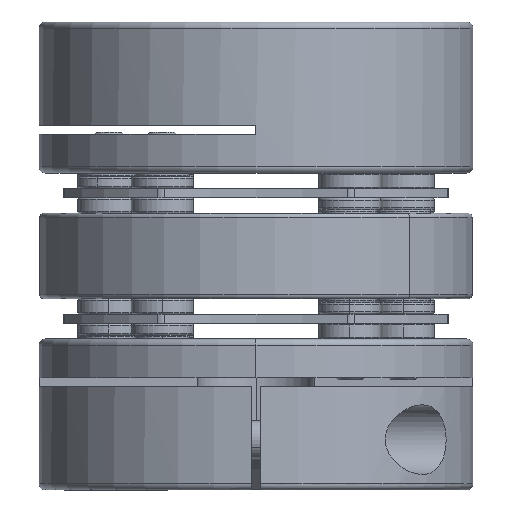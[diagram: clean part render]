
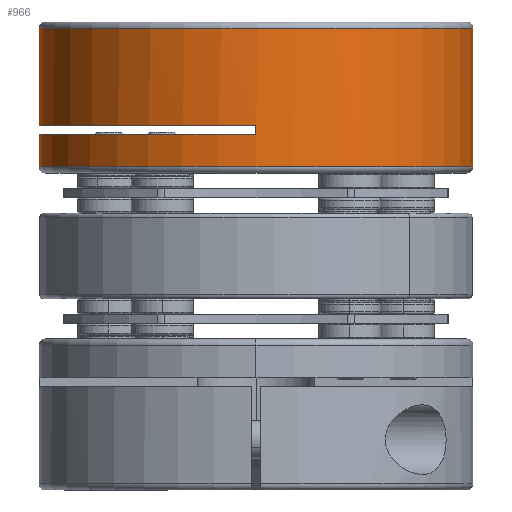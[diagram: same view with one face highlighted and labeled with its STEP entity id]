
A CAD part, front view. The second image highlights one B-rep face of the part: STEP entity #966.
In plain terms, the highlighted cylindrical face has radius 28 mm (diameter 56 mm), a partial arc.
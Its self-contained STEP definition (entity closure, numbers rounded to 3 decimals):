
#448 = VERTEX_POINT ( 'NONE', #3542 ) ;
#511 = EDGE_CURVE ( 'NONE', #607, #512, #3388, .T. ) ;
#512 = VERTEX_POINT ( 'NONE', #3384 ) ;
#540 = VERTEX_POINT ( 'NONE', #3666 ) ;
#607 = VERTEX_POINT ( 'NONE', #3734 ) ;
#781 = EDGE_CURVE ( 'NONE', #607, #448, #4461, .T. ) ;
#806 = EDGE_CURVE ( 'NONE', #807, #540, #4506, .T. ) ;
#807 = VERTEX_POINT ( 'NONE', #4392 ) ;
#948 = ORIENTED_EDGE ( 'NONE', *, *, #949, .T. ) ;
#949 = EDGE_CURVE ( 'NONE', #1003, #973, #4659, .T. ) ;
#950 = ORIENTED_EDGE ( 'NONE', *, *, #1023, .F. ) ;
#951 = ORIENTED_EDGE ( 'NONE', *, *, #806, .T. ) ;
#953 = ORIENTED_EDGE ( 'NONE', *, *, #954, .T. ) ;
#954 = EDGE_CURVE ( 'NONE', #540, #448, #4611, .T. ) ;
#962 = EDGE_LOOP ( 'NONE', ( #963, #1016, #1017, #1001, #948, #950, #951, #953 ) ) ;
#963 = ORIENTED_EDGE ( 'NONE', *, *, #781, .F. ) ;
#966 = ADVANCED_FACE ( 'NONE', ( #4733 ), #4726, .T. ) ;
#973 = VERTEX_POINT ( 'NONE', #4389 ) ;
#1000 = VERTEX_POINT ( 'NONE', #4858 ) ;
#1001 = ORIENTED_EDGE ( 'NONE', *, *, #1002, .F. ) ;
#1002 = EDGE_CURVE ( 'NONE', #1003, #1000, #4857, .T. ) ;
#1003 = VERTEX_POINT ( 'NONE', #4852 ) ;
#1016 = ORIENTED_EDGE ( 'NONE', *, *, #511, .T. ) ;
#1017 = ORIENTED_EDGE ( 'NONE', *, *, #1018, .F. ) ;
#1018 = EDGE_CURVE ( 'NONE', #1000, #512, #4894, .T. ) ;
#1023 = EDGE_CURVE ( 'NONE', #807, #973, #4886, .T. ) ;
#3384 = CARTESIAN_POINT ( 'NONE',  ( -27.994, -0.6, 18.7 ) ) ;
#3385 = DIRECTION ( 'NONE',  ( 1., 0., 0. ) ) ;
#3386 = DIRECTION ( 'NONE',  ( 0., 0., -1. ) ) ;
#3387 = AXIS2_PLACEMENT_3D ( 'NONE', #3473, #3386, #3385 ) ;
#3388 = CIRCLE ( 'NONE', #3387, 28. ) ;
#3473 = CARTESIAN_POINT ( 'NONE',  ( 0., 0., 18.7 ) ) ;
#3542 = CARTESIAN_POINT ( 'NONE',  ( 28., 0., 0.8 ) ) ;
#3666 = CARTESIAN_POINT ( 'NONE',  ( -28., 0., 0.8 ) ) ;
#3734 = CARTESIAN_POINT ( 'NONE',  ( 28., 0., 18.7 ) ) ;
#4389 = CARTESIAN_POINT ( 'NONE',  ( 0., -28., 5. ) ) ;
#4392 = CARTESIAN_POINT ( 'NONE',  ( -28., 0., 5. ) ) ;
#4393 = DIRECTION ( 'NONE',  ( 0., 0., -1. ) ) ;
#4394 = VECTOR ( 'NONE', #4393, 1000. ) ;
#4395 = CARTESIAN_POINT ( 'NONE',  ( -28., 0., 19.5 ) ) ;
#4461 = LINE ( 'NONE', #4485, #4474 ) ;
#4473 = DIRECTION ( 'NONE',  ( 0., 0., -1. ) ) ;
#4474 = VECTOR ( 'NONE', #4473, 1000. ) ;
#4485 = CARTESIAN_POINT ( 'NONE',  ( 28., 0., 19.5 ) ) ;
#4506 = LINE ( 'NONE', #4395, #4394 ) ;
#4607 = DIRECTION ( 'NONE',  ( 1., 0., 0. ) ) ;
#4608 = DIRECTION ( 'NONE',  ( 0., 0., 1. ) ) ;
#4609 = CARTESIAN_POINT ( 'NONE',  ( 0., 0., 0.8 ) ) ;
#4610 = AXIS2_PLACEMENT_3D ( 'NONE', #4609, #4608, #4607 ) ;
#4611 = CIRCLE ( 'NONE', #4610, 28. ) ;
#4656 = DIRECTION ( 'NONE',  ( 0., 0., -1. ) ) ;
#4657 = VECTOR ( 'NONE', #4656, 1000. ) ;
#4658 = CARTESIAN_POINT ( 'NONE',  ( 0., -28., 19.5 ) ) ;
#4659 = LINE ( 'NONE', #4658, #4657 ) ;
#4723 = DIRECTION ( 'NONE',  ( -1., 0., 0. ) ) ;
#4724 = DIRECTION ( 'NONE',  ( 0., 0., -1. ) ) ;
#4725 = AXIS2_PLACEMENT_3D ( 'NONE', #4727, #4724, #4723 ) ;
#4726 = CYLINDRICAL_SURFACE ( 'NONE', #4725, 28. ) ;
#4727 = CARTESIAN_POINT ( 'NONE',  ( 0., 0., 19.5 ) ) ;
#4733 = FACE_OUTER_BOUND ( 'NONE', #962, .T. ) ;
#4852 = CARTESIAN_POINT ( 'NONE',  ( 0., -28., 6.2 ) ) ;
#4853 = DIRECTION ( 'NONE',  ( 0., 1., 0. ) ) ;
#4854 = DIRECTION ( 'NONE',  ( 0., 0., -1. ) ) ;
#4855 = CARTESIAN_POINT ( 'NONE',  ( 0., 0., 6.2 ) ) ;
#4856 = AXIS2_PLACEMENT_3D ( 'NONE', #4855, #4854, #4853 ) ;
#4857 = CIRCLE ( 'NONE', #4856, 28. ) ;
#4858 = CARTESIAN_POINT ( 'NONE',  ( -27.994, -0.6, 6.2 ) ) ;
#4882 = DIRECTION ( 'NONE',  ( 0., -1., 0. ) ) ;
#4883 = DIRECTION ( 'NONE',  ( 0., 0., 1. ) ) ;
#4884 = CARTESIAN_POINT ( 'NONE',  ( 0., 0., 5. ) ) ;
#4885 = AXIS2_PLACEMENT_3D ( 'NONE', #4884, #4883, #4882 ) ;
#4886 = CIRCLE ( 'NONE', #4885, 28. ) ;
#4891 = DIRECTION ( 'NONE',  ( 0., 0., 1. ) ) ;
#4892 = VECTOR ( 'NONE', #4891, 1000. ) ;
#4893 = CARTESIAN_POINT ( 'NONE',  ( -27.994, -0.6, 19.5 ) ) ;
#4894 = LINE ( 'NONE', #4893, #4892 ) ;
